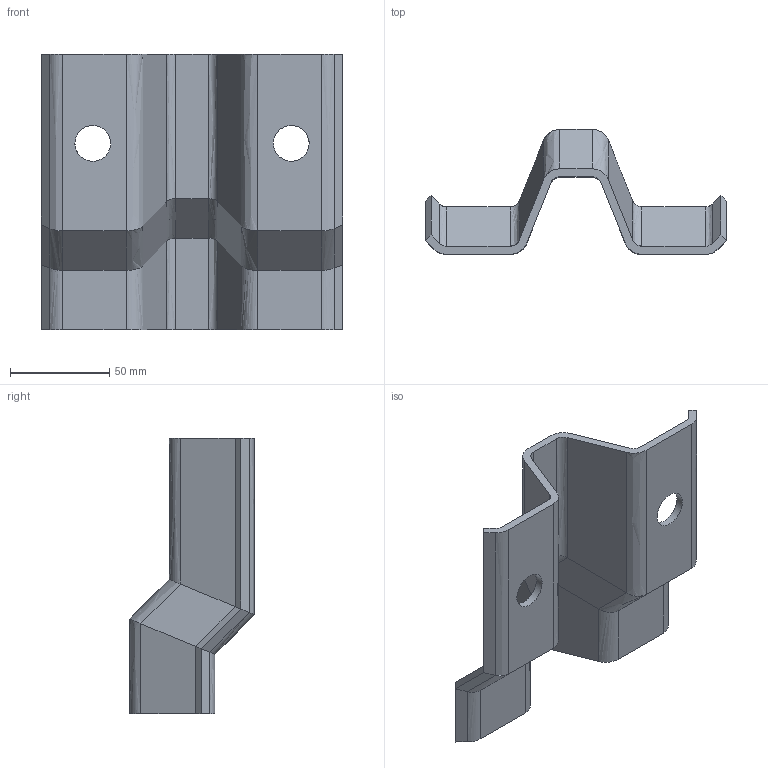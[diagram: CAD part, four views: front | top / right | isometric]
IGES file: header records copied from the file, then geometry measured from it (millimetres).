
Global section: file name: C175; native system: Autodesk RealDWG; preprocessor: Autodesk Translation Framework DWG producer (atf_dwg_producer); organization: unknown; date: 20230703.104255; units: centimetre
Bounding box: 151.72 x 63 x 139 mm (x, y, z)
Volume: 116863.9 mm3; surface area: 61679.2 mm2
Topology: 1 solids, 1 shells, 88 faces, 202 edges, 116 vertices
Faces by surface type: bspline 88
